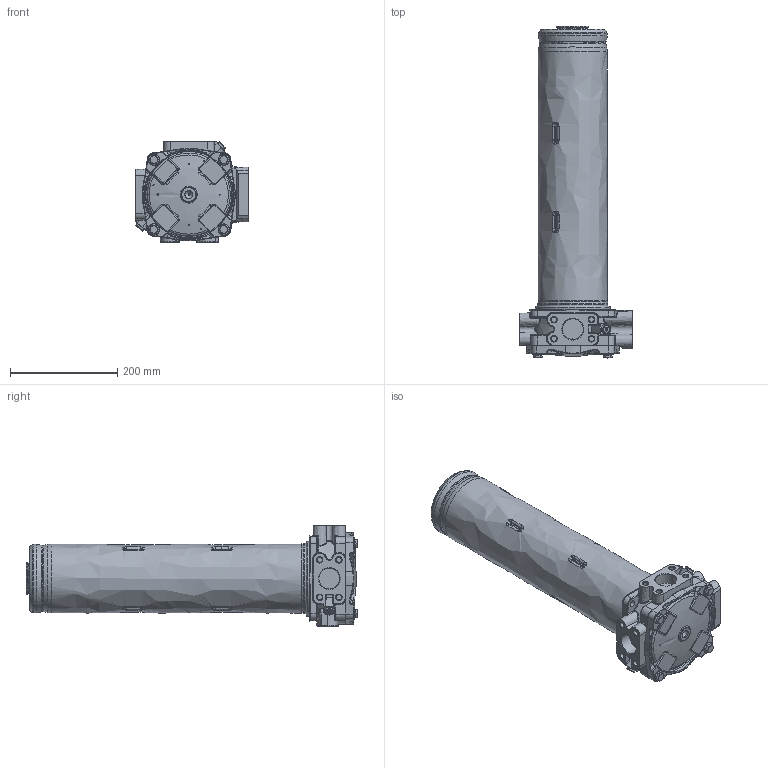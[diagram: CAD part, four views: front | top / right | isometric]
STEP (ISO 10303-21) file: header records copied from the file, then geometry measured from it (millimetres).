
FILE_DESCRIPTION((''),'2;1');
FILE_NAME('U:\Users\i.maeder\W\30370800_E463_4A.stp', '2014-06-18T14:27:37',('User'),('SDRC'),'I-DEAS Master Series 9','UNIX', 'Yes');
FILE_SCHEMA(('AUTOMOTIVE_DESIGN { 1 0 10303 214 1 1 1 1 }'));
Length unit declared in the file: millimetre
Products named in the file (1): 30370800(340398)
Bounding box: 209 x 618.4 x 187.5 mm (x, y, z)
Volume: 9046017.9 mm3; surface area: 396297.5 mm2
Topology: 1 solids, 32 shells, 1673 faces, 4240 edges, 2704 vertices
Faces by surface type: bspline 1673
Entity records: 67308 total; most frequent: CARTESIAN_POINT 44303, ORIENTED_EDGE 8036, EDGE_CURVE 4018, VERTEX_POINT 2457, B_SPLINE_CURVE_WITH_KNOTS 2242, EDGE_LOOP 1741, FACE_OUTER_BOUND 1673, ADVANCED_FACE 1673
